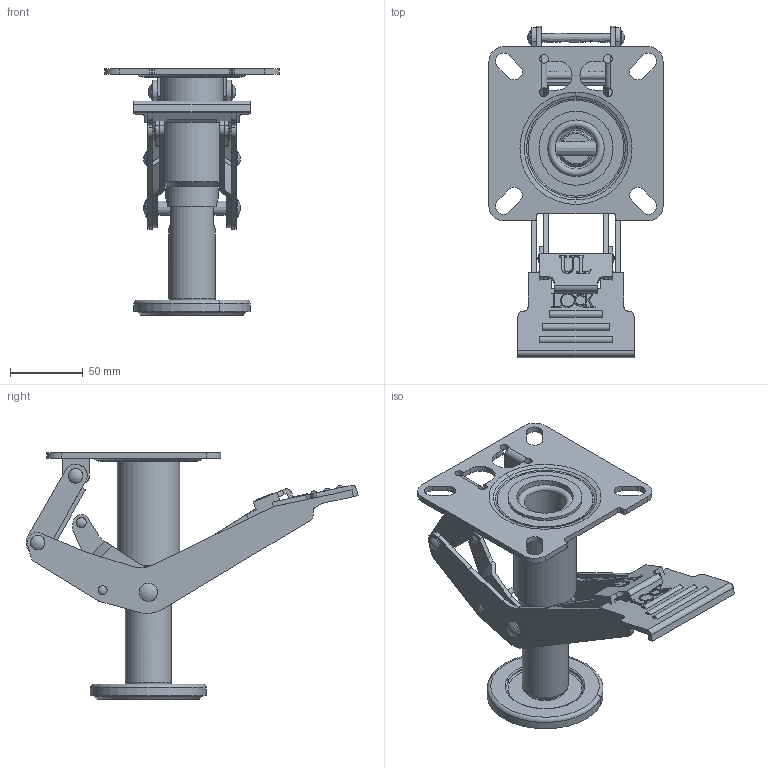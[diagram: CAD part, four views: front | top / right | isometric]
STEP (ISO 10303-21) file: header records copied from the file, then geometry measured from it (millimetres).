
FILE_DESCRIPTION( ( 'STEP AP214' ), '1' );
FILE_NAME( ' ', ' ', ( ' ' ), ( ' ' ), 'PSStep 10.0', ' ', ' ' );
FILE_SCHEMA( ( 'automotive_design' ) );
Length unit declared in the file: millimetre
Products named in the file (23): @939; @941; @943; @945; @955; @959; @961; @963; @965; ENCHU1 _X2_306E7D50679C_X0_; @1719; @1894; @3132; @3443; @3445; @3447; @3449; @3685; @3687; @3689
Bounding box: 120 x 228.72 x 170 mm (x, y, z)
Volume: 236792.6 mm3; surface area: 188234.9 mm2
Topology: 23 solids, 23 shells, 521 faces, 1357 edges, 918 vertices
Faces by surface type: plane 239, cylinder 157, bspline 61, cone 30, torus 16, sphere 14, offset 4
Full cylindrical faces by diameter (mm): 3 x4, 4.1 x4, 6.1 x2, 10.1 x2, 25.4 x1, 28.8 x1, 31.8 x1, 32 x1, 33.8 x1, 36 x1, 39 x1, 43 x1, 51 x1
Entity records: 25965 total; most frequent: CARTESIAN_POINT 9334, ORIENTED_EDGE 2578, DIRECTION 2285, EDGE_CURVE 1289, VERTEX_POINT 906, AXIS2_PLACEMENT_3D 841, EDGE_LOOP 681, LINE 603
